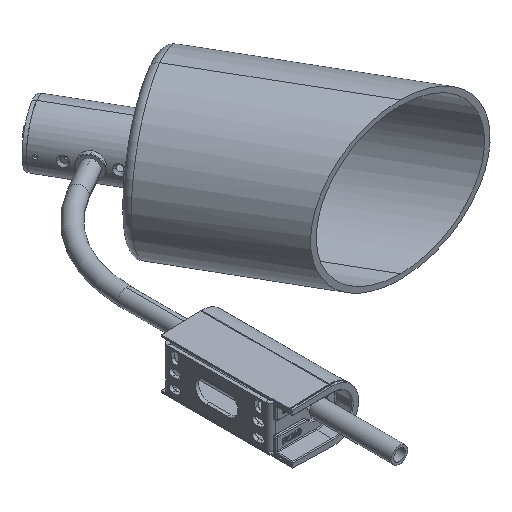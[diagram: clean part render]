
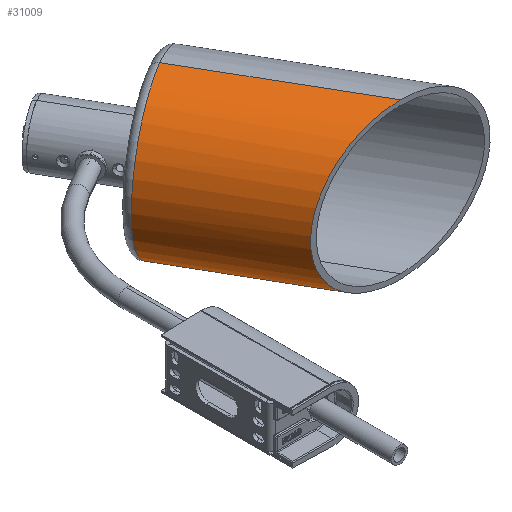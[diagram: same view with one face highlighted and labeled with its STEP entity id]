
A CAD part, isometric view. The second image highlights one B-rep face of the part: STEP entity #31009.
In plain terms, the highlighted cylindrical face has radius 47.5 mm (diameter 95 mm), a partial arc.
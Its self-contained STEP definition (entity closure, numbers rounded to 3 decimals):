
#8621 = CYLINDRICAL_SURFACE ( 'NONE', #91126, 47.5 ) ;
#11295 = EDGE_CURVE ( 'NONE', #74098, #53918, #20450, .T. ) ;
#14216 = CARTESIAN_POINT ( 'NONE',  ( 0., 112.576, 47.5 ) ) ;
#16829 = ORIENTED_EDGE ( 'NONE', *, *, #115989, .F. ) ;
#19611 = FACE_OUTER_BOUND ( 'NONE', #117207, .T. ) ;
#20450 = CIRCLE ( 'NONE', #89588, 47.5 ) ;
#23979 = CARTESIAN_POINT ( 'NONE',  ( 0., 112.576, -47.5 ) ) ;
#24467 = CARTESIAN_POINT ( 'NONE',  ( 0., 5., 47.5 ) ) ;
#24520 = ORIENTED_EDGE ( 'NONE', *, *, #11295, .F. ) ;
#27575 = EDGE_CURVE ( 'NONE', #113959, #74098, #72728, .T. ) ;
#28058 = DIRECTION ( 'NONE',  ( 0., -1., 0. ) ) ;
#28561 = DIRECTION ( 'NONE',  ( 0., 0., -1. ) ) ;
#31009 = ADVANCED_FACE ( 'NONE', ( #19611 ), #8621, .T. ) ;
#46713 = CARTESIAN_POINT ( 'NONE',  ( 0., 0., -47.5 ) ) ;
#48784 = ORIENTED_EDGE ( 'NONE', *, *, #27575, .F. ) ;
#48801 = DIRECTION ( 'NONE',  ( 0., -1., 0. ) ) ;
#53918 = VERTEX_POINT ( 'NONE', #86439 ) ;
#54634 = CARTESIAN_POINT ( 'NONE',  ( 0., 112.576, -47.5 ) ) ;
#55746 = ORIENTED_EDGE ( 'NONE', *, *, #140799, .T. ) ;
#70718 =( BOUNDED_CURVE ( )  B_SPLINE_CURVE ( 3, ( #23979, #71517, #71001, #14216 ),
 .UNSPECIFIED., .F., .F. ) 
 B_SPLINE_CURVE_WITH_KNOTS ( ( 4, 4 ),
 ( 4.712, 7.854 ),
 .UNSPECIFIED. ) 
 CURVE ( )  GEOMETRIC_REPRESENTATION_ITEM ( )  RATIONAL_B_SPLINE_CURVE ( ( 1., 0.333, 0.333, 1. ) ) 
 REPRESENTATION_ITEM ( '' )  );
#71001 = CARTESIAN_POINT ( 'NONE',  ( -95., 57.728, 47.5 ) ) ;
#71517 = CARTESIAN_POINT ( 'NONE',  ( -95., 57.728, -47.5 ) ) ;
#72728 = LINE ( 'NONE', #94868, #81917 ) ;
#74098 = VERTEX_POINT ( 'NONE', #24467 ) ;
#81917 = VECTOR ( 'NONE', #48801, 1000. ) ;
#83491 = VERTEX_POINT ( 'NONE', #54634 ) ;
#86327 = CARTESIAN_POINT ( 'NONE',  ( 0., 0., 0. ) ) ;
#86439 = CARTESIAN_POINT ( 'NONE',  ( 0., 5., -47.5 ) ) ;
#86714 = CARTESIAN_POINT ( 'NONE',  ( 0., 5., 0. ) ) ;
#89588 = AXIS2_PLACEMENT_3D ( 'NONE', #86714, #143970, #143467 ) ;
#91126 = AXIS2_PLACEMENT_3D ( 'NONE', #86327, #28058, #28561 ) ;
#94868 = CARTESIAN_POINT ( 'NONE',  ( 0., 0., 47.5 ) ) ;
#113959 = VERTEX_POINT ( 'NONE', #121264 ) ;
#114139 = LINE ( 'NONE', #46713, #150580 ) ;
#115989 = EDGE_CURVE ( 'NONE', #83491, #113959, #70718, .T. ) ;
#117207 = EDGE_LOOP ( 'NONE', ( #48784, #16829, #55746, #24520 ) ) ;
#121264 = CARTESIAN_POINT ( 'NONE',  ( 0., 112.576, 47.5 ) ) ;
#128543 = DIRECTION ( 'NONE',  ( 0., -1., 0. ) ) ;
#140799 = EDGE_CURVE ( 'NONE', #83491, #53918, #114139, .T. ) ;
#143467 = DIRECTION ( 'NONE',  ( 0., 0., -1. ) ) ;
#143970 = DIRECTION ( 'NONE',  ( 0., -1., 0. ) ) ;
#150580 = VECTOR ( 'NONE', #128543, 1000. ) ;
